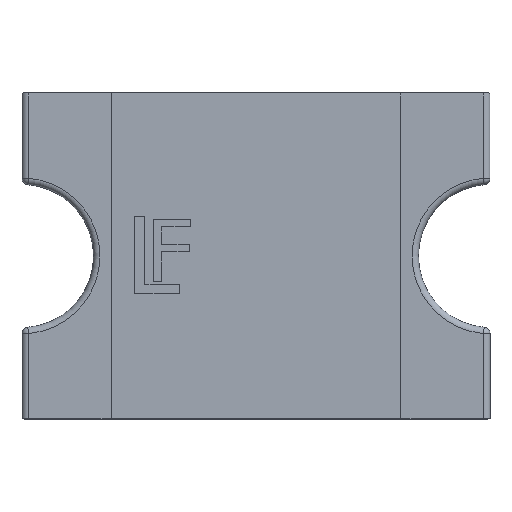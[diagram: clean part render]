
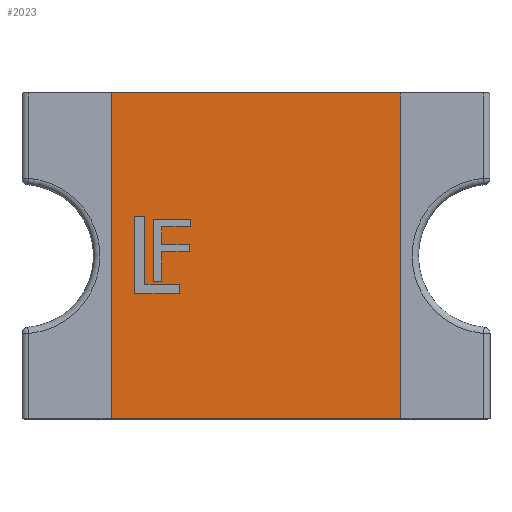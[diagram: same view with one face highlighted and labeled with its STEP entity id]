
A CAD part, top view. The second image highlights one B-rep face of the part: STEP entity #2023.
In plain terms, the highlighted planar face has unit normal (0, 0, 1).
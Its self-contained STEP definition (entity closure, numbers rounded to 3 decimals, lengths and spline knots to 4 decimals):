
#175=FACE_OUTER_BOUND('',#297,.T.);
#297=EDGE_LOOP('',(#1375,#1376,#1377,#1378));
#415=LINE('',#2951,#657);
#419=LINE('',#2960,#661);
#425=LINE('',#2970,#667);
#426=LINE('',#2972,#668);
#657=VECTOR('',#2339,5.12);
#661=VECTOR('',#2345,5.12);
#667=VECTOR('',#2355,4.555);
#668=VECTOR('',#2358,4.555);
#899=VERTEX_POINT('',#2949);
#900=VERTEX_POINT('',#2950);
#903=VERTEX_POINT('',#2958);
#904=VERTEX_POINT('',#2959);
#1077=EDGE_CURVE('',#899,#900,#415,.T.);
#1081=EDGE_CURVE('',#903,#904,#419,.T.);
#1087=EDGE_CURVE('',#903,#900,#425,.T.);
#1088=EDGE_CURVE('',#899,#904,#426,.T.);
#1375=ORIENTED_EDGE('',*,*,#1081,.F.);
#1376=ORIENTED_EDGE('',*,*,#1087,.T.);
#1377=ORIENTED_EDGE('',*,*,#1077,.F.);
#1378=ORIENTED_EDGE('',*,*,#1088,.T.);
#1927=PLANE('',#2155);
#2023=ADVANCED_FACE('',(#175),#1927,.T.);
#2155=AXIS2_PLACEMENT_3D('',#2971,#2356,#2357);
#2339=DIRECTION('',(0.,-1.,0.));
#2345=DIRECTION('',(0.,1.,0.));
#2355=DIRECTION('',(1.,0.,0.));
#2356=DIRECTION('center_axis',(0.,0.,1.));
#2357=DIRECTION('ref_axis',(1.,0.,0.));
#2358=DIRECTION('',(-1.,0.,0.));
#2949=CARTESIAN_POINT('',(2.2775,2.56,2.));
#2950=CARTESIAN_POINT('',(2.2775,-2.56,2.));
#2951=CARTESIAN_POINT('',(2.2775,1.28,2.));
#2958=CARTESIAN_POINT('',(-2.2775,-2.56,2.));
#2959=CARTESIAN_POINT('',(-2.2775,2.56,2.));
#2960=CARTESIAN_POINT('',(-2.2775,-1.28,2.));
#2970=CARTESIAN_POINT('',(-3.6775,-2.56,2.));
#2971=CARTESIAN_POINT('Origin',(0.,0.,2.));
#2972=CARTESIAN_POINT('',(3.6775,2.56,2.));
